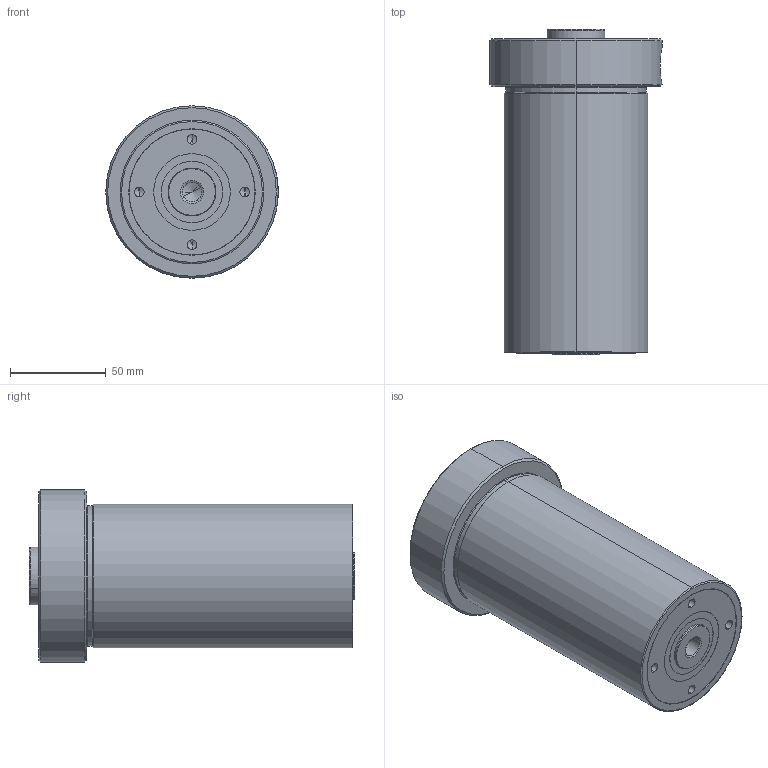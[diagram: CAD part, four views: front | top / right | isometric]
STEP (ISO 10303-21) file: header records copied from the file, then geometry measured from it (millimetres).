
FILE_DESCRIPTION (( 'STEP AP203' ), '1' );
FILE_NAME ('GERMA_Federspannzylinder_82-71-2.STEP', '2023-09-11T12:20:35', ( '' ), ( '' ), 'SwSTEP 2.0', 'SolidWorks 2016', '' );
FILE_SCHEMA (( 'CONFIG_CONTROL_DESIGN' ));
Length unit declared in the file: millimetre
Products named in the file (3): GH-82-71-2_GH-82-71-2; GERMA_Federspannzylinder_82-71-2; Kolben 82-71-2_Kolben 82-71-2
Assembly tree (2 placements, depth 2):
  GERMA_Federspannzylinder_82-71-2
    GH-82-71-2_GH-82-71-2
    Kolben 82-71-2_Kolben 82-71-2
Bounding box: 90 x 170 x 90 mm (x, y, z)
Volume: 744113.5 mm3; surface area: 98404.9 mm2
Topology: 2 solids, 2 shells, 137 faces, 296 edges, 171 vertices
Faces by surface type: cylinder 64, cone 46, plane 23, torus 4
Entity records: 3980 total; most frequent: DIRECTION 716, CARTESIAN_POINT 681, ORIENTED_EDGE 548, AXIS2_PLACEMENT_3D 303, EDGE_CURVE 274, VERTEX_POINT 169, EDGE_LOOP 167, CIRCLE 161
